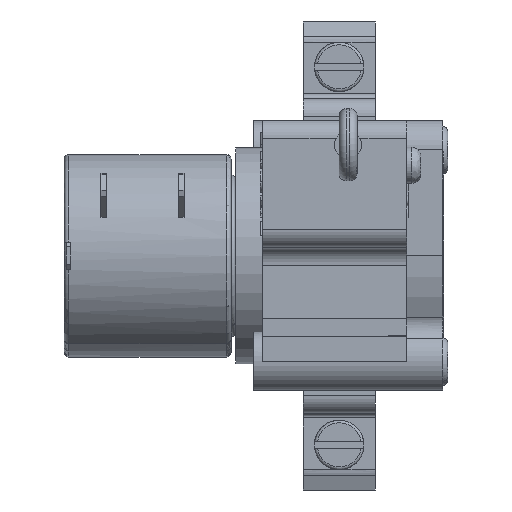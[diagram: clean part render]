
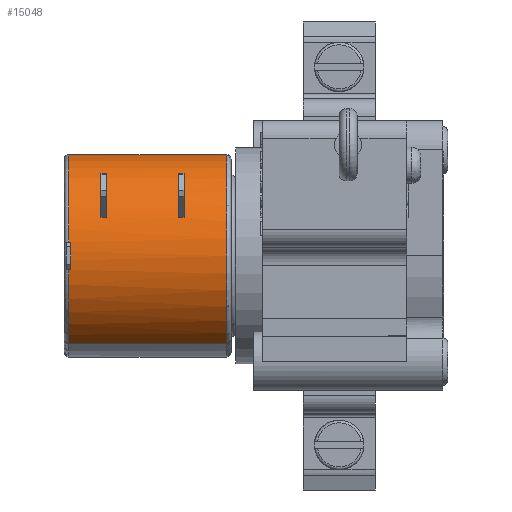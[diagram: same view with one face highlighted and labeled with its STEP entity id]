
A CAD part, top view. The second image highlights one B-rep face of the part: STEP entity #15048.
In plain terms, the highlighted cylindrical face has radius 11.25 mm (diameter 22.5 mm), a partial arc.
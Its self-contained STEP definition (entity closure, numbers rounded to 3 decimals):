
#4303=DIRECTION('',(1.,0.,0.));
#4304=VECTOR('',#4303,17.55);
#4305=CARTESIAN_POINT('',(-21.55,-9.743,5.625));
#4306=LINE('',#4305,#4304);
#4307=DIRECTION('',(1.,0.,0.));
#4308=VECTOR('',#4307,0.25);
#4309=CARTESIAN_POINT('',(-21.55,-1.571,11.14));
#4310=LINE('',#4309,#4308);
#4311=DIRECTION('',(-1.,0.,0.));
#4312=VECTOR('',#4311,0.25);
#4313=CARTESIAN_POINT('',(-21.3,1.5,11.15));
#4314=LINE('',#4313,#4312);
#4315=DIRECTION('',(1.,0.,0.));
#4316=VECTOR('',#4315,17.55);
#4317=CARTESIAN_POINT('',(-21.55,9.743,-5.625));
#4318=LINE('',#4317,#4316);
#4319=DIRECTION('',(-1.,0.,0.));
#4320=VECTOR('',#4319,0.6);
#4321=CARTESIAN_POINT('',(-8.72,6.874,8.906));
#4322=LINE('',#4321,#4320);
#4323=DIRECTION('',(1.,0.,0.));
#4324=VECTOR('',#4323,0.6);
#4325=CARTESIAN_POINT('',(-9.32,4.276,10.406));
#4326=LINE('',#4325,#4324);
#4327=DIRECTION('',(-1.,0.,0.));
#4328=VECTOR('',#4327,0.6);
#4329=CARTESIAN_POINT('',(-17.35,6.874,8.906));
#4330=LINE('',#4329,#4328);
#4331=DIRECTION('',(1.,0.,0.));
#4332=VECTOR('',#4331,0.6);
#4333=CARTESIAN_POINT('',(-17.95,4.276,10.406));
#4334=LINE('',#4333,#4332);
#4335=CARTESIAN_POINT('',(-4.,0.,0.));
#4336=DIRECTION('',(-1.,0.,0.));
#4337=DIRECTION('',(0.,-0.866,0.5));
#4338=AXIS2_PLACEMENT_3D('',#4335,#4336,#4337);
#4340=CARTESIAN_POINT('',(-4.,0.,0.));
#4341=DIRECTION('',(-1.,0.,0.));
#4342=DIRECTION('',(0.,0.873,-0.489));
#4343=AXIS2_PLACEMENT_3D('',#4340,#4341,#4342);
#4355=CARTESIAN_POINT('',(-21.55,-1.571,11.14));
#4357=CARTESIAN_POINT('',(-21.55,0.,0.));
#4358=DIRECTION('',(1.,0.,0.));
#4359=DIRECTION('',(0.,-0.14,0.99));
#4360=AXIS2_PLACEMENT_3D('',#4357,#4358,#4359);
#4397=CARTESIAN_POINT('',(-21.55,0.,0.));
#4398=DIRECTION('',(1.,0.,0.));
#4399=DIRECTION('',(0.,0.866,-0.5));
#4400=AXIS2_PLACEMENT_3D('',#4397,#4398,#4399);
#4402=CARTESIAN_POINT('',(-21.55,0.,0.));
#4403=DIRECTION('',(1.,0.,0.));
#4404=DIRECTION('',(0.,0.501,0.866));
#4405=AXIS2_PLACEMENT_3D('',#4402,#4403,#4404);
#4485=CARTESIAN_POINT('',(-21.3,0.,0.));
#4486=DIRECTION('',(1.,0.,0.));
#4487=DIRECTION('',(0.,0.133,0.991));
#4488=AXIS2_PLACEMENT_3D('',#4485,#4486,#4487);
#4536=CARTESIAN_POINT('',(-8.72,0.,0.));
#4537=DIRECTION('',(1.,0.,0.));
#4538=DIRECTION('',(0.,0.611,0.792));
#4539=AXIS2_PLACEMENT_3D('',#4536,#4537,#4538);
#4567=CARTESIAN_POINT('',(-9.32,0.,0.));
#4568=DIRECTION('',(-1.,0.,0.));
#4569=DIRECTION('',(0.,0.38,0.925));
#4570=AXIS2_PLACEMENT_3D('',#4567,#4568,#4569);
#4630=CARTESIAN_POINT('',(-17.35,0.,0.));
#4631=DIRECTION('',(1.,0.,0.));
#4632=DIRECTION('',(0.,0.611,0.792));
#4633=AXIS2_PLACEMENT_3D('',#4630,#4631,#4632);
#4661=CARTESIAN_POINT('',(-17.95,0.,0.));
#4662=DIRECTION('',(-1.,0.,0.));
#4663=DIRECTION('',(0.,0.38,0.925));
#4664=AXIS2_PLACEMENT_3D('',#4661,#4662,#4663);
#10043=CARTESIAN_POINT('',(-4.,9.743,-5.625));
#10045=VERTEX_POINT('',#10043);
#10047=CARTESIAN_POINT('',(-4.,-9.743,5.625));
#10048=VERTEX_POINT('',#10047);
#10050=CARTESIAN_POINT('',(-21.55,9.743,-5.625));
#10052=VERTEX_POINT('',#10050);
#10053=CARTESIAN_POINT('',(-21.55,-9.743,5.625));
#10054=VERTEX_POINT('',#10053);
#10064=VERTEX_POINT('',#4355);
#10067=CARTESIAN_POINT('',(-21.55,5.634,9.738));
#10068=CARTESIAN_POINT('',(-21.55,1.5,11.15));
#10069=VERTEX_POINT('',#10067);
#10070=VERTEX_POINT('',#10068);
#10071=CARTESIAN_POINT('',(-21.3,-1.571,11.14));
#10072=VERTEX_POINT('',#10071);
#10073=CARTESIAN_POINT('',(-21.3,1.5,11.15));
#10074=VERTEX_POINT('',#10073);
#10075=CARTESIAN_POINT('',(-4.,9.816,-5.496));
#10076=VERTEX_POINT('',#10075);
#10077=CARTESIAN_POINT('',(-8.72,6.874,8.906));
#10078=CARTESIAN_POINT('',(-8.72,4.276,10.406));
#10079=VERTEX_POINT('',#10077);
#10080=VERTEX_POINT('',#10078);
#10081=CARTESIAN_POINT('',(-9.32,6.874,8.906));
#10082=VERTEX_POINT('',#10081);
#10083=CARTESIAN_POINT('',(-9.32,4.276,10.406));
#10084=VERTEX_POINT('',#10083);
#10085=CARTESIAN_POINT('',(-17.35,6.874,8.906));
#10086=CARTESIAN_POINT('',(-17.35,4.276,10.406));
#10087=VERTEX_POINT('',#10085);
#10088=VERTEX_POINT('',#10086);
#10089=CARTESIAN_POINT('',(-17.95,6.874,8.906));
#10090=VERTEX_POINT('',#10089);
#10091=CARTESIAN_POINT('',(-17.95,4.276,10.406));
#10092=VERTEX_POINT('',#10091);
#15003=CARTESIAN_POINT('',(-3.,0.,0.));
#15004=DIRECTION('',(1.,0.,0.));
#15005=DIRECTION('',(0.,-0.866,0.5));
#15006=AXIS2_PLACEMENT_3D('',#15003,#15004,#15005);
#15007=CYLINDRICAL_SURFACE('',#15006,11.25);
#15009=ORIENTED_EDGE('',*,*,#15008,.F.);
#15011=ORIENTED_EDGE('',*,*,#15010,.F.);
#15012=ORIENTED_EDGE('',*,*,#14998,.F.);
#15014=ORIENTED_EDGE('',*,*,#15013,.F.);
#15016=ORIENTED_EDGE('',*,*,#15015,.T.);
#15018=ORIENTED_EDGE('',*,*,#15017,.F.);
#15020=ORIENTED_EDGE('',*,*,#15019,.T.);
#15022=ORIENTED_EDGE('',*,*,#15021,.F.);
#15024=ORIENTED_EDGE('',*,*,#15023,.F.);
#15025=ORIENTED_EDGE('',*,*,#14992,.T.);
#15026=EDGE_LOOP('',(#15009,#15011,#15012,#15014,#15016,#15018,#15020,#15022,
#15024,#15025));
#15027=FACE_OUTER_BOUND('',#15026,.F.);
#15029=ORIENTED_EDGE('',*,*,#15028,.F.);
#15031=ORIENTED_EDGE('',*,*,#15030,.T.);
#15033=ORIENTED_EDGE('',*,*,#15032,.F.);
#15035=ORIENTED_EDGE('',*,*,#15034,.T.);
#15036=EDGE_LOOP('',(#15029,#15031,#15033,#15035));
#15037=FACE_BOUND('',#15036,.F.);
#15039=ORIENTED_EDGE('',*,*,#15038,.F.);
#15041=ORIENTED_EDGE('',*,*,#15040,.T.);
#15043=ORIENTED_EDGE('',*,*,#15042,.F.);
#15045=ORIENTED_EDGE('',*,*,#15044,.T.);
#15046=EDGE_LOOP('',(#15039,#15041,#15043,#15045));
#15047=FACE_BOUND('',#15046,.F.);
#15048=ADVANCED_FACE('',(#15027,#15037,#15047),#15007,.T.);
#4339=CIRCLE('',#4338,11.25);
#4344=CIRCLE('',#4343,11.25);
#4361=CIRCLE('',#4360,11.25);
#4401=CIRCLE('',#4400,11.25);
#4406=CIRCLE('',#4405,11.25);
#4489=CIRCLE('',#4488,11.25);
#4540=CIRCLE('',#4539,11.25);
#4571=CIRCLE('',#4570,11.25);
#4634=CIRCLE('',#4633,11.25);
#4665=CIRCLE('',#4664,11.25);
#14992=EDGE_CURVE('',#10052,#10045,#4318,.T.);
#14998=EDGE_CURVE('',#10054,#10048,#4306,.T.);
#15008=EDGE_CURVE('',#10076,#10045,#4344,.T.);
#15010=EDGE_CURVE('',#10048,#10076,#4339,.T.);
#15013=EDGE_CURVE('',#10064,#10054,#4361,.T.);
#15015=EDGE_CURVE('',#10064,#10072,#4310,.T.);
#15017=EDGE_CURVE('',#10074,#10072,#4489,.T.);
#15019=EDGE_CURVE('',#10074,#10070,#4314,.T.);
#15021=EDGE_CURVE('',#10069,#10070,#4406,.T.);
#15023=EDGE_CURVE('',#10052,#10069,#4401,.T.);
#15028=EDGE_CURVE('',#10079,#10080,#4540,.T.);
#15030=EDGE_CURVE('',#10079,#10082,#4322,.T.);
#15032=EDGE_CURVE('',#10084,#10082,#4571,.T.);
#15034=EDGE_CURVE('',#10084,#10080,#4326,.T.);
#15038=EDGE_CURVE('',#10087,#10088,#4634,.T.);
#15040=EDGE_CURVE('',#10087,#10090,#4330,.T.);
#15042=EDGE_CURVE('',#10092,#10090,#4665,.T.);
#15044=EDGE_CURVE('',#10092,#10088,#4334,.T.);
